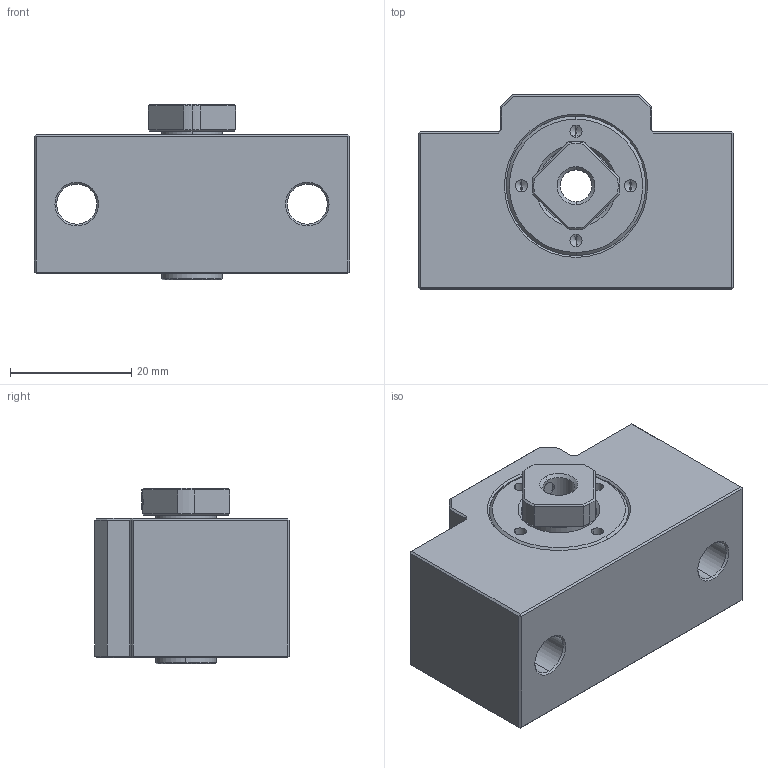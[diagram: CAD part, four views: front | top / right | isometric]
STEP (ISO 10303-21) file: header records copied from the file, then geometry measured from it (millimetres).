
FILE_DESCRIPTION (( 'STEP AP203' ), '1' );
FILE_NAME ('BSGK-6-P0-C7_203.STEP', '2013-02-27T23:55:41', ( '' ), ( '' ), 'SwSTEP 2.0', 'SolidWorks 2012', '' );
FILE_SCHEMA (( 'CONFIG_CONTROL_DESIGN' ));
Length unit declared in the file: millimetre
Products named in the file (1): BSGK-6-P0-C7_203
Bounding box: 52 x 32 x 29 mm (x, y, z)
Volume: 31310.1 mm3; surface area: 10639.4 mm2
Topology: 1 solids, 6 shells, 241 faces, 521 edges, 297 vertices
Faces by surface type: plane 90, cone 68, cylinder 67, torus 16
Entity records: 6552 total; most frequent: CARTESIAN_POINT 1199, DIRECTION 1179, ORIENTED_EDGE 1022, EDGE_CURVE 511, AXIS2_PLACEMENT_3D 457, VERTEX_POINT 297, EDGE_LOOP 270, LINE 265
